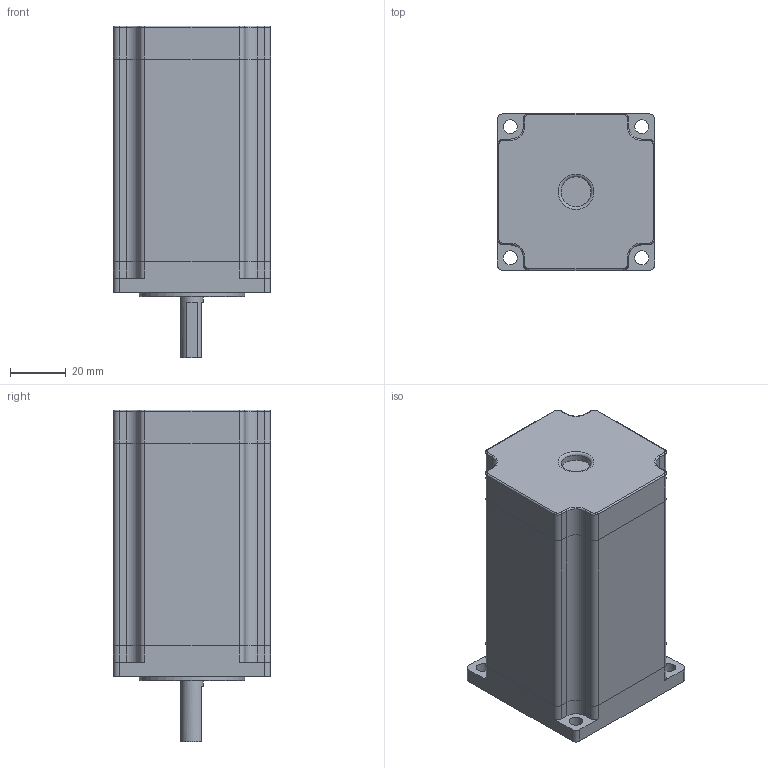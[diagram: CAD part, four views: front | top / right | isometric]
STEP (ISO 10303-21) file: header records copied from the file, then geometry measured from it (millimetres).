
FILE_DESCRIPTION(/* description */ (''),/* implementation_level */ '2;1');
FILE_NAME(/* name */ 'C:/Users/jakob/dev/fablabverket/students/100/web/projects/diy_cnc/source/step/Nema23.step',/* time_stamp */ '2017-05-31T20:14:32+02:00',/* author */ (''),/* organization */ (''),/* preprocessor_version */ 'ST-DEVELOPER v16.13',/* originating_system */ 'Autodesk Translation Framework v6.1.1.50',/* authorisation */ '');
FILE_SCHEMA (('AUTOMOTIVE_DESIGN { 1 0 10303 214 3 1 1 }'));
Length unit declared in the file: millimetre
Products named in the file (1): nema23 v5
Bounding box: 56.4 x 56.4 x 119.2 mm (x, y, z)
Volume: 276330.4 mm3; surface area: 39145.6 mm2
Topology: 4 solids, 4 shells, 129 faces, 332 edges, 214 vertices
Faces by surface type: cylinder 60, plane 55, torus 14
Full cylindrical faces by diameter (mm): 5 x4, 8 x1, 10.75 x1, 12 x1, 38 x1
Entity records: 3895 total; most frequent: DIRECTION 714, CARTESIAN_POINT 656, ORIENTED_EDGE 634, EDGE_CURVE 317, AXIS2_PLACEMENT_3D 267, VERTEX_POINT 209, LINE 180, VECTOR 180
